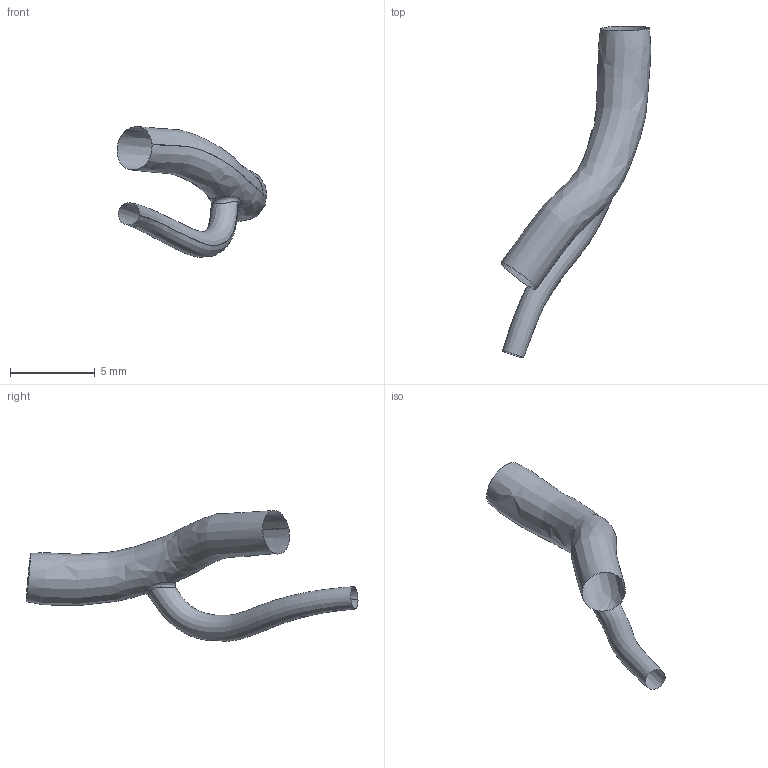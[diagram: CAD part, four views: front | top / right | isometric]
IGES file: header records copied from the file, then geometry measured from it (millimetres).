
Global section: file name: C:\Documents and Settings\Administrator\Desktop\FDA-Pig\Domestic LCA\Pig_000005\om.es.igs; native system: Rhinoceros ( May 19 2006 ); preprocessor: Trout Lake IGES 012 May 19 2006; date: 111205.183434; units: centimetre
Bounding box: 8.85 x 19.59 x 7.72 mm (x, y, z)
Surface area: 213.9 mm2 (no closed solid volume)
Topology: 0 solids, 0 shells, 3 faces, 28 edges, 25 vertices
Faces by surface type: bspline 3
